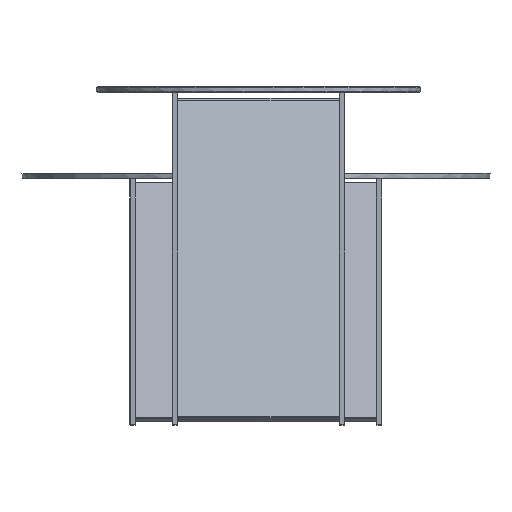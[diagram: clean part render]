
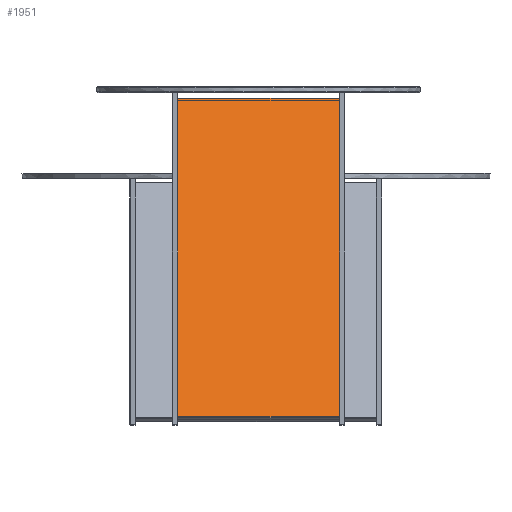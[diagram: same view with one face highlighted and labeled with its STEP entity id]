
A CAD part, left-side view. The second image highlights one B-rep face of the part: STEP entity #1951.
In plain terms, the highlighted free-form (B-spline) face has degree [1, 1] with [2, 2] control points.
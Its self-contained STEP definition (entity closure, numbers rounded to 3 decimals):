
#1852 = CARTESIAN_POINT ('', (-387.74, -115.55, 453.808));
#1853 = VERTEX_POINT ('', #1852);
#1861 = CARTESIAN_POINT ('', (-617.313, -115.55, 11.88));
#1862 = VERTEX_POINT ('', #1861);
#1863 = CARTESIAN_POINT ('', (-387.74, -115.55, 453.808));
#1864 = CARTESIAN_POINT ('', (-464.264, -115.55, 306.499));
#1865 = CARTESIAN_POINT ('', (-540.789, -115.55, 159.189));
#1866 = CARTESIAN_POINT ('', (-617.313, -115.55, 11.88));
#1867 = B_SPLINE_CURVE_WITH_KNOTS ('', 3, (#1863, #1864, #1865, #1866), .UNSPECIFIED., .F., .U., (4, 4), (0., 1.), .UNSPECIFIED.);
#1868 = EDGE_CURVE ('', #1853, #1862, #1867, .T.);
#1924 = ORIENTED_EDGE ('', *, *, #1868, .F.);
#1925 = CARTESIAN_POINT ('', (-387.74, 108.45, 453.808));
#1926 = VERTEX_POINT ('', #1925);
#1927 = CARTESIAN_POINT ('', (-387.74, -115.55, 453.808));
#1928 = CARTESIAN_POINT ('', (-387.74, 108.45, 453.808));
#1929 = B_SPLINE_CURVE_WITH_KNOTS ('', 1, (#1927, #1928), .UNSPECIFIED., .F., .U., (2, 2), (0., 1.), .UNSPECIFIED.);
#1930 = EDGE_CURVE ('', #1853, #1926, #1929, .T.);
#1931 = ORIENTED_EDGE ('', *, *, #1930, .T.);
#1932 = CARTESIAN_POINT ('', (-617.313, 108.45, 11.88));
#1933 = VERTEX_POINT ('', #1932);
#1934 = CARTESIAN_POINT ('', (-387.74, 108.45, 453.808));
#1935 = CARTESIAN_POINT ('', (-617.313, 108.45, 11.88));
#1936 = B_SPLINE_CURVE_WITH_KNOTS ('', 1, (#1934, #1935), .UNSPECIFIED., .F., .U., (2, 2), (0., 1.), .UNSPECIFIED.);
#1937 = EDGE_CURVE ('', #1926, #1933, #1936, .T.);
#1938 = ORIENTED_EDGE ('', *, *, #1937, .T.);
#1939 = CARTESIAN_POINT ('', (-617.313, 108.45, 11.88));
#1940 = CARTESIAN_POINT ('', (-617.313, -115.55, 11.88));
#1941 = B_SPLINE_CURVE_WITH_KNOTS ('', 1, (#1939, #1940), .UNSPECIFIED., .F., .U., (2, 2), (0., 1.), .UNSPECIFIED.);
#1942 = EDGE_CURVE ('', #1933, #1862, #1941, .T.);
#1943 = ORIENTED_EDGE ('', *, *, #1942, .T.);
#1944 = EDGE_LOOP ('', (#1924, #1931, #1938, #1943));
#1945 = FACE_OUTER_BOUND ('', #1944, .T.);
#1946 = CARTESIAN_POINT ('', (-617.313, 108.45, 11.88));
#1947 = CARTESIAN_POINT ('', (-387.74, 108.45, 453.808));
#1948 = CARTESIAN_POINT ('', (-617.313, -115.55, 11.88));
#1949 = CARTESIAN_POINT ('', (-387.74, -115.55, 453.808));
#1950 = B_SPLINE_SURFACE_WITH_KNOTS ('', 1, 1, ((#1946, #1947), (#1948, #1949)), .UNSPECIFIED., .F., .F., .U., (2, 2), (2, 2), (0., 1.), (0., 1.), .UNSPECIFIED.);
#1951 = ADVANCED_FACE ('', (#1945), #1950, .T.);
